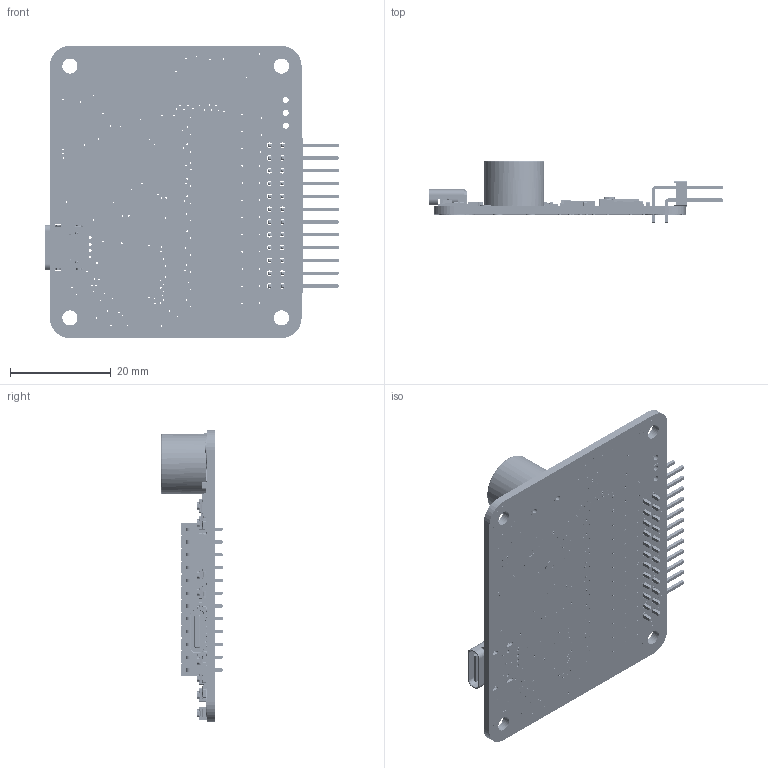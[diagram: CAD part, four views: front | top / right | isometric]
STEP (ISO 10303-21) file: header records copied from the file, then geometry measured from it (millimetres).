
FILE_DESCRIPTION (( 'STEP AP214' ), '1' );
FILE_NAME ('YMXBTN1C.STEP', '2026-01-08T10:56:34', ( '' ), ( '' ), 'SwSTEP 2.0', 'SolidWorks 2008', '' );
FILE_SCHEMA (( 'AUTOMOTIVE_DESIGN' ));
Length unit declared in the file: millimetre
Products named in the file (41): LED_ch12; YMXBTN1C; REG1; SW1; R3_ch9; T2; R2_ch9; T3; USB1; YBUTTON; AUDIO_D; R18; R10; U1; YLED; sens1; C22; C19; R1_ch9; PCB; R5; R20; C21; C18; C16; C2_ch9; C2; R4; SPK1_D; R19; FLASH1; R2; R1; R9; 613_024_210_21; R12; R14; C1_ch9; CPU1; RGB1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
Assembly tree (153 placements, depth 2):
  YMXBTN1C
    C2_ch9  x12
    LED_ch12  x12
    R1_ch9  x12
    R3_ch9  x12
    C1_ch9  x12
    R18  x2
    CPU1
    T3  x2
    YBUTTON  x13
    R5  x13
    R2_ch9  x12
    C31  x10
    C18
    R4
    R14  x2
    C2
    C21  x4
    SW1
    C22  x2
    R1
    SPK1_D
    C19
    AUDIO_D
    R20  x7
    USB1
    RGB1
    613_024_210_21
    R2
    C16
    R9
    U1
    R10
    R19  x2
    YLED
    REG1
    sens1
    FLASH1
    PCB
    R12
    T2
Bounding box: 58.48 x 12.37 x 58 mm (x, y, z)
Volume: 6296.6 mm3; surface area: 12011.9 mm2
Topology: 195 solids, 197 shells, 19851 faces, 51578 edges, 33206 vertices
Faces by surface type: plane 12973, cylinder 4823, bspline 1495, sphere 448, torus 98, cone 14
Entity records: 519639 total; most frequent: CARTESIAN_POINT 111289, ORIENTED_EDGE 60748, DIRECTION 56776, EDGE_CURVE 30374, VECTOR 22758, LINE 22758, VERTEX_POINT 20024, AXIS2_PLACEMENT_3D 17009
